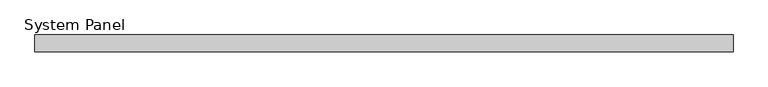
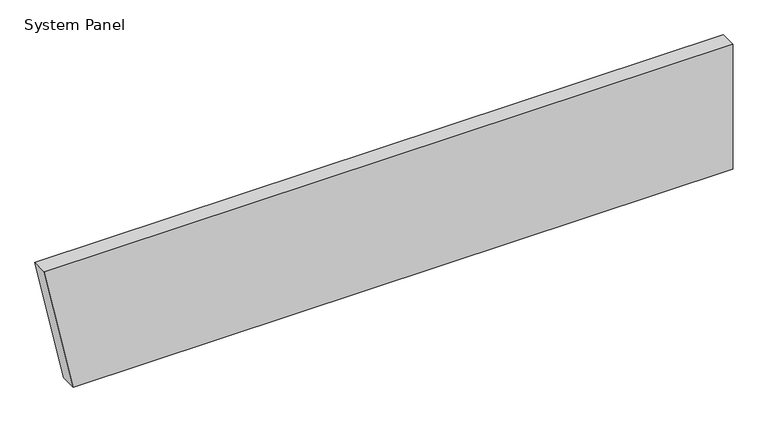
"""IFC4 building model written with IfcOpenShell, lengths in millimetres: plate geometry, System Panel : Equitilt_FlameGuard_150mm_Plain_Surfmist."""

import ifcopenshell
import ifcopenshell.guid

model = None  # the IFC model being written
_history = None  # IfcOwnerHistory: only IFC2X3 demands one
_inside = {}  # id of a spatial element -> (the spatial element, [elements in it])
_under = {}  # id of a project, library or spatial element -> (it, [spatial elements below it])
_declared = {}  # id of a project -> (the project, [libraries it declares])
_typed = {}  # id of a type object -> (the type object, [elements of that type])
_made_of = {}  # id of a material, layer set ... -> (it, [elements and type objects made of it])


def new_model(schema):
    """Start an empty IFC model of exactly this schema.

    Asked for "IFC4X3", IfcOpenShell would pick the latest addendum, in which some entities
    have other attributes; the version numbers below select the first issue.
    IFC2X3 requires an IfcOwnerHistory on every rooted entity: one is made here for all.
    """
    global model, _history
    if schema == "IFC4X3":
        model = ifcopenshell.file(schema_version=(4, 3, 0, 0))
    else:
        model = ifcopenshell.file(schema=schema)
    _inside.clear()
    _under.clear()
    _declared.clear()
    _typed.clear()
    _made_of.clear()
    _history = None
    if model.schema == "IFC2X3":
        org = make("IfcOrganization", Name="unknown")
        user = make(
            "IfcPersonAndOrganization",
            ThePerson=make("IfcPerson", FamilyName="unknown"),
            TheOrganization=org,
        )
        app = make(
            "IfcApplication",
            ApplicationDeveloper=org,
            Version="unknown",
            ApplicationFullName="unknown",
            ApplicationIdentifier="unknown",
        )
        _history = make(
            "IfcOwnerHistory",
            OwningUser=user,
            OwningApplication=app,
            ChangeAction="ADDED",
            CreationDate=0,
        )
    return model


def make(cls, **values):
    """One entity of the class cls with the attributes given. An attribute that is None is left unset."""
    return model.create_entity(
        cls, **{name: value for name, value in values.items() if value is not None}
    )


def rooted(cls, **values):
    """An entity with a GlobalId (a new one), such as an element, a storey or a relation."""
    return make(cls, GlobalId=ifcopenshell.guid.new(), OwnerHistory=_history, **values)


def si_unit(unit_type, name, prefix=None):
    """IfcSIUnit, for example si_unit("LENGTHUNIT", "METRE", prefix="MILLI")."""
    return make("IfcSIUnit", UnitType=unit_type, Prefix=prefix, Name=name)


def assignment(units):
    """IfcUnitAssignment: the units of a project."""
    return None if units is None else make("IfcUnitAssignment", Units=units)


def point(xyz):
    """IfcCartesianPoint."""
    return None if xyz is None else make("IfcCartesianPoint", Coordinates=xyz)


def direction(xyz):
    """IfcDirection."""
    return None if xyz is None else make("IfcDirection", DirectionRatios=xyz)


def frame(location, z_axis=None, x_axis=None):
    """IfcAxis2Placement3D, a coordinate frame: its origin and axes. An axis left out is left unset."""
    return make(
        "IfcAxis2Placement3D",
        Location=point(location),
        Axis=direction(z_axis),
        RefDirection=direction(x_axis),
    )


def origin():
    """The frame at (0, 0, 0) with its axes left unset."""
    return frame((0.0, 0.0, 0.0))


def place(relative_to, where):
    """IfcLocalPlacement: puts the frame where relative to a parent placement (None: the world)."""
    return make(
        "IfcLocalPlacement", PlacementRelTo=relative_to, RelativePlacement=where
    )


def context(
    kind, dimensions, precision=None, world=None, true_north=None, identifier=None
):
    """IfcGeometricRepresentationContext, for example the 3D "Model" context."""
    return make(
        "IfcGeometricRepresentationContext",
        ContextIdentifier=identifier,
        ContextType=kind,
        CoordinateSpaceDimension=dimensions,
        Precision=precision,
        WorldCoordinateSystem=world,
        TrueNorth=true_north,
    )


def project(units=None, contexts=None):
    """IfcProject with its units and contexts."""
    return rooted(
        "IfcProject",
        Name="project",
        RepresentationContexts=contexts,
        UnitsInContext=assignment(units),
    )


def spatial(cls, under=None, at=None, **own):
    """A site, building, storey or space (cls), placed at a placement, below another one or the project."""
    s = rooted(cls, ObjectPlacement=at, **own)
    if under is not None:
        _under.setdefault(under.id(), (under, []))[1].append(s)
    return s


def polyline(points):
    """IfcPolyline through the points."""
    return make("IfcPolyline", Points=[point(p) for p in points])


def outline(outer, holes=None, kind="AREA"):
    """IfcArbitraryClosedProfileDef: a profile drawn as a closed curve; with holes, ...WithVoids."""
    if holes is None:
        return make("IfcArbitraryClosedProfileDef", ProfileType=kind, OuterCurve=outer)
    return make(
        "IfcArbitraryProfileDefWithVoids",
        ProfileType=kind,
        OuterCurve=outer,
        InnerCurves=holes,
    )


def extrude(swept, where, along, depth):
    """IfcExtrudedAreaSolid: the profile swept, set in the frame where, extruded along a direction by depth."""
    return make(
        "IfcExtrudedAreaSolid",
        SweptArea=swept,
        Position=where,
        ExtrudedDirection=direction(along),
        Depth=depth,
    )


def shape(context_of_items, identifier, shape_type, items):
    """IfcShapeRepresentation: the items that make up one representation, for example the "Body"."""
    return make(
        "IfcShapeRepresentation",
        ContextOfItems=context_of_items,
        RepresentationIdentifier=identifier,
        RepresentationType=shape_type,
        Items=items,
    )


def source(mapping_origin, context_of_items, identifier, shape_type, items):
    """IfcRepresentationMap: a shape defined once, which mapped items show again and again."""
    return make(
        "IfcRepresentationMap",
        MappingOrigin=mapping_origin,
        MappedRepresentation=shape(context_of_items, identifier, shape_type, items),
    )


def transform(
    local_origin,
    x_axis=None,
    y_axis=None,
    z_axis=None,
    scale=None,
    scale2=None,
    scale3=None,
    uniform=True,
):
    """IfcCartesianTransformationOperator3D, or its non-uniform kind. x_axis, y_axis, z_axis: its Axis1, 2, 3."""
    if uniform:
        return make(
            "IfcCartesianTransformationOperator3D",
            Axis1=direction(x_axis),
            Axis2=direction(y_axis),
            LocalOrigin=point(local_origin),
            Scale=scale,
            Axis3=direction(z_axis),
        )
    return make(
        "IfcCartesianTransformationOperator3DnonUniform",
        Axis1=direction(x_axis),
        Axis2=direction(y_axis),
        LocalOrigin=point(local_origin),
        Scale=scale,
        Axis3=direction(z_axis),
        Scale2=scale2,
        Scale3=scale3,
    )


def mapped(mapping_source, mapping_target):
    """IfcMappedItem: shows the shape of a source again, moved by a transform."""
    return make(
        "IfcMappedItem", MappingSource=mapping_source, MappingTarget=mapping_target
    )


def made_of(thing, what):
    """Note that an element or type object is made of a material, layer set ...; save() writes the relation."""
    if what is not None:
        _made_of.setdefault(what.id(), (what, []))[1].append(thing)
    return thing


def element(
    cls,
    number,
    at=None,
    inside=None,
    cuts=None,
    type_object=None,
    material=None,
    context=None,
    identifier="Body",
    shape_type=None,
    held_by="IfcProductDefinitionShape",
    body=None,
    shapes=None,
    **own,
):
    """One element of the class cls, such as IfcWall. Its Tag is "e" and its number.

    at: its placement. inside: the storey or other place that contains it. cuts: it is an
    opening in that element (IfcRelVoidsElement). A single representation is given by context,
    identifier, shape_type and body (its items); several are given by shapes. held_by: the class
    of the entity that holds the representations. save() writes the other relations.
    """
    e = rooted(cls, Tag="e%d" % number, ObjectPlacement=at, **own)
    if body is not None:
        shapes = [shape(context, identifier, shape_type, body)]
    if shapes is not None:
        e.Representation = make(held_by, Representations=shapes)
    if inside is not None:
        _inside.setdefault(inside.id(), (inside, []))[1].append(e)
    if cuts is not None:
        rooted(
            "IfcRelVoidsElement", RelatingBuildingElement=cuts, RelatedOpeningElement=e
        )
    if type_object is not None:
        _typed.setdefault(type_object.id(), (type_object, []))[1].append(e)
    return made_of(e, material)


def aggregate(whole, parts):
    """IfcRelAggregates: a whole, such as a stair, and the parts it consists of."""
    return rooted("IfcRelAggregates", RelatingObject=whole, RelatedObjects=parts)


def save(model, path):
    """Write the relations noted so far, then the file.

    IfcRelAggregates (storeys below a building ...), IfcRelContainedInSpatialStructure (elements
    in a storey), IfcRelDefinesByType, IfcRelAssociatesMaterial and IfcRelDeclares: one each for
    every whole, place, type object, material and project.
    """
    for whole, parts in _under.values():
        aggregate(whole, parts)
    for where, things in _inside.values():
        rooted(
            "IfcRelContainedInSpatialStructure",
            RelatedElements=things,
            RelatingStructure=where,
        )
    for kind, things in _typed.values():
        rooted("IfcRelDefinesByType", RelatedObjects=things, RelatingType=kind)
    for what, things in _made_of.values():
        rooted("IfcRelAssociatesMaterial", RelatedObjects=things, RelatingMaterial=what)
    for by, libraries in _declared.values():
        rooted("IfcRelDeclares", RelatingContext=by, RelatedDefinitions=libraries)
    model.write(path)


def system_panel_fa75fbb7(model_context):
    return source(origin(), model_context, "Body", "SweptSolid", [
        extrude(outline(polyline([(0.0, -2864.5641691), (0.0, 3125.4358309), (1200.0, 3125.4358309), (1200.0, -3125.4358309), (0.0, -2864.5641691)])), frame((0.0, -150.0, 0.0), z_axis=(0.0, 1.0, 0.0), x_axis=(0.0, 0.0, 1.0)), (0.0, 0.0, 1.0), 150.0),
    ])


if __name__ == "__main__":
    model = new_model("IFC4")
    model_context = context("Model", 3, world=origin())
    ifc_project = project(units=[si_unit("LENGTHUNIT", "METRE", prefix="MILLI")], contexts=[model_context])
    site = spatial("IfcSite", under=ifc_project)
    building = spatial("IfcBuilding", under=site)
    placement = place(None, origin())
    system_panel_shape = system_panel_fa75fbb7(model_context)
    element("IfcPlate", 1, ObjectType="System Panel : Equitilt_FlameGuard_150mm_Plain_Surfmist", at=placement, inside=building, context=model_context, shape_type="MappedRepresentation", body=[
        mapped(system_panel_shape, transform((0.0, 0.0, 0.0), x_axis=(1.0, 0.0, 0.0), y_axis=(0.0, 1.0, 0.0), z_axis=(0.0, 0.0, 1.0))),
    ])
    save(model, "model.ifc")
